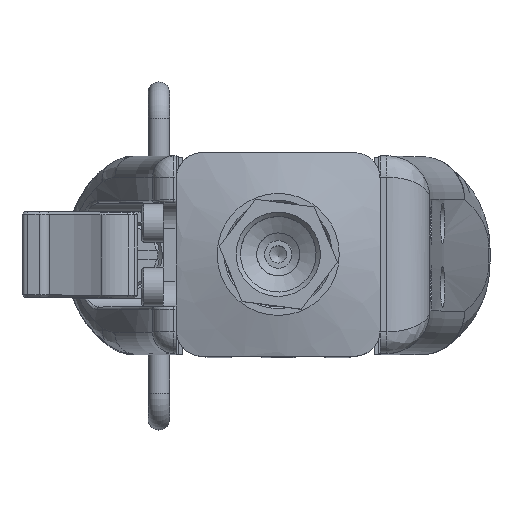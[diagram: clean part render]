
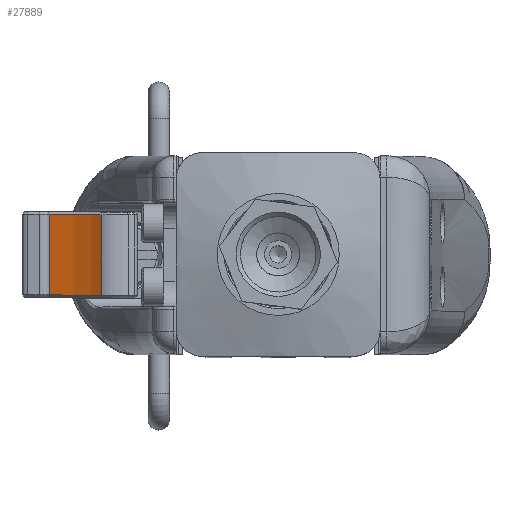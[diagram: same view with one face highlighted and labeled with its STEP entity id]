
A CAD part, top view. The second image highlights one B-rep face of the part: STEP entity #27889.
In plain terms, the highlighted cylindrical face has radius 53.6 mm (diameter 107.2 mm), a partial arc.
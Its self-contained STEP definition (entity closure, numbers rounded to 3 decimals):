
#249 = CYLINDRICAL_SURFACE ( 'NONE', #30746, 53.6 ) ;
#9499 = DIRECTION ( 'NONE',  ( 0., 0., -1. ) ) ;
#13084 = CIRCLE ( 'NONE', #103903, 53.6 ) ;
#15305 = CARTESIAN_POINT ( 'NONE',  ( -74.15, 4.7, 20.85 ) ) ;
#23338 = DIRECTION ( 'NONE',  ( 0., 1., 0. ) ) ;
#26835 = CARTESIAN_POINT ( 'NONE',  ( -20.601, 4.7, 18.502 ) ) ;
#27889 = ADVANCED_FACE ( 'NONE', ( #63432 ), #249, .T. ) ;
#28536 = VECTOR ( 'NONE', #101590, 1000. ) ;
#30320 = CARTESIAN_POINT ( 'NONE',  ( -26.663, -4.7, 45.708 ) ) ;
#30746 = AXIS2_PLACEMENT_3D ( 'NONE', #31825, #63958, #87642 ) ;
#31544 = DIRECTION ( 'NONE',  ( 0., -1., 0. ) ) ;
#31825 = CARTESIAN_POINT ( 'NONE',  ( -74.15, -5., 20.85 ) ) ;
#33091 = VERTEX_POINT ( 'NONE', #26835 ) ;
#37587 = CARTESIAN_POINT ( 'NONE',  ( -20.601, -5., 18.502 ) ) ;
#38808 = EDGE_CURVE ( 'NONE', #79273, #33091, #13084, .T. ) ;
#41446 = EDGE_LOOP ( 'NONE', ( #101166, #76919, #81731, #50490 ) ) ;
#41694 = EDGE_CURVE ( 'NONE', #97772, #85458, #90418, .T. ) ;
#48395 = CARTESIAN_POINT ( 'NONE',  ( -74.15, -4.7, 20.85 ) ) ;
#50490 = ORIENTED_EDGE ( 'NONE', *, *, #38808, .F. ) ;
#53640 = CARTESIAN_POINT ( 'NONE',  ( -26.663, 18.036, 45.708 ) ) ;
#55984 = LINE ( 'NONE', #37587, #82924 ) ;
#58472 = AXIS2_PLACEMENT_3D ( 'NONE', #48395, #31544, #88920 ) ;
#59060 = EDGE_CURVE ( 'NONE', #97772, #33091, #55984, .T. ) ;
#63432 = FACE_OUTER_BOUND ( 'NONE', #41446, .T. ) ;
#63958 = DIRECTION ( 'NONE',  ( 0., 1., 0. ) ) ;
#76919 = ORIENTED_EDGE ( 'NONE', *, *, #41694, .F. ) ;
#77039 = CARTESIAN_POINT ( 'NONE',  ( -26.663, 4.7, 45.708 ) ) ;
#79273 = VERTEX_POINT ( 'NONE', #77039 ) ;
#81731 = ORIENTED_EDGE ( 'NONE', *, *, #59060, .T. ) ;
#82924 = VECTOR ( 'NONE', #23338, 1000. ) ;
#85458 = VERTEX_POINT ( 'NONE', #30320 ) ;
#87642 = DIRECTION ( 'NONE',  ( 0., 0., 1. ) ) ;
#88920 = DIRECTION ( 'NONE',  ( 0., 0., 1. ) ) ;
#88995 = DIRECTION ( 'NONE',  ( 0., 1., 0. ) ) ;
#90418 = CIRCLE ( 'NONE', #58472, 53.6 ) ;
#92366 = EDGE_CURVE ( 'NONE', #85458, #79273, #100557, .T. ) ;
#95217 = CARTESIAN_POINT ( 'NONE',  ( -20.601, -4.7, 18.502 ) ) ;
#97772 = VERTEX_POINT ( 'NONE', #95217 ) ;
#100557 = LINE ( 'NONE', #53640, #28536 ) ;
#101166 = ORIENTED_EDGE ( 'NONE', *, *, #92366, .F. ) ;
#101590 = DIRECTION ( 'NONE',  ( 0., 1., 0. ) ) ;
#103903 = AXIS2_PLACEMENT_3D ( 'NONE', #15305, #88995, #9499 ) ;
